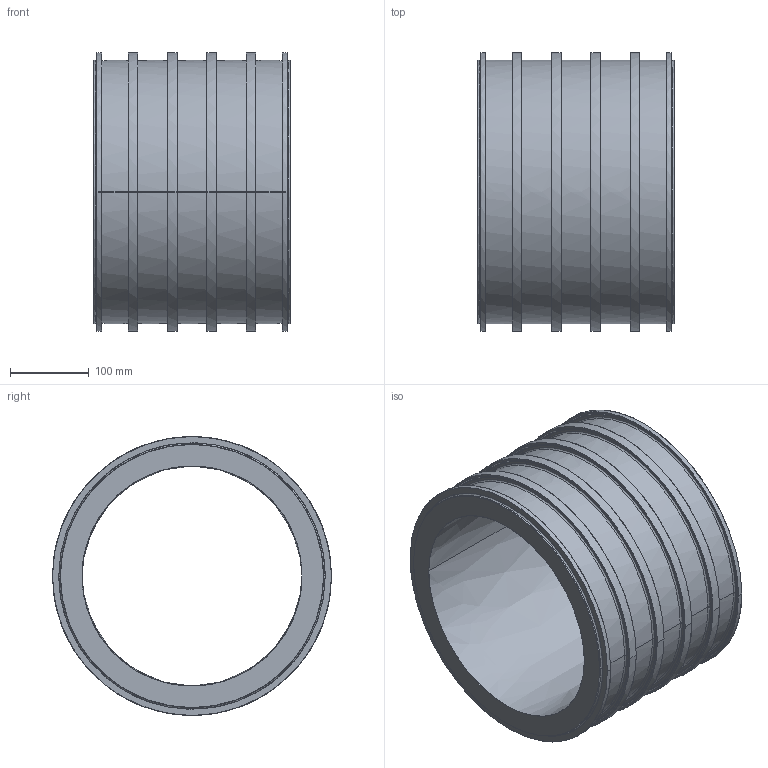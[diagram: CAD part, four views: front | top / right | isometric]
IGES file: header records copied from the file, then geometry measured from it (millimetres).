
Start section:  PTC IGES file: asfl_d225.igs
Global section: file name: asfl_d225.igs; native system: Pro/ENGINEER by Parametric Technology Corporation; preprocessor: 2011490; author: mtunjic; organization: Unknown; date: 20130730.084056; units: millimetre
Bounding box: 250 x 355 x 355 mm (x, y, z)
Surface area: 707343.6 mm2 (no closed solid volume)
Topology: 0 solids, 0 shells, 138 faces, 552 edges, 552 vertices
Faces by surface type: bspline 138
